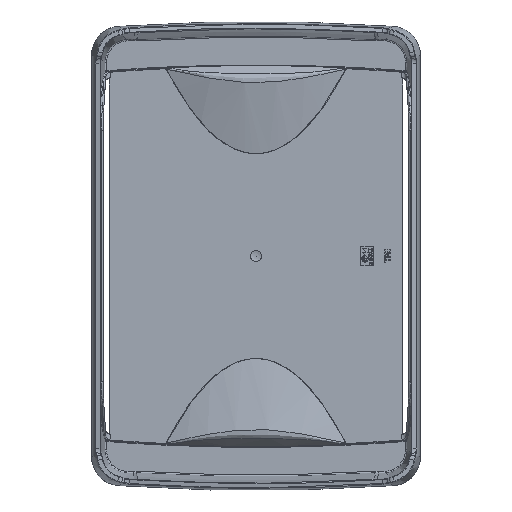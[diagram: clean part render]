
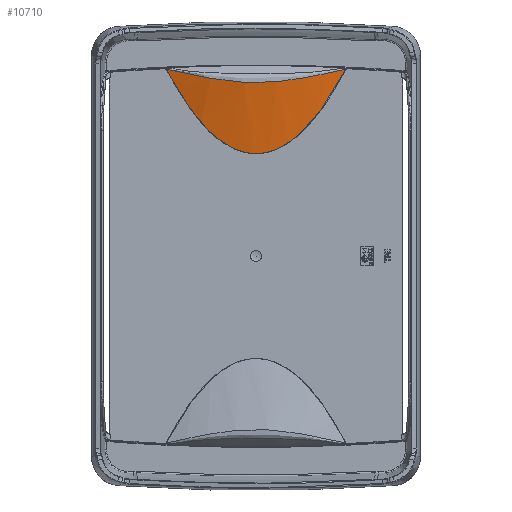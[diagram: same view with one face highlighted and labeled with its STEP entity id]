
A CAD part, top view. The second image highlights one B-rep face of the part: STEP entity #10710.
In plain terms, the highlighted cylindrical face has radius 175 mm (diameter 350 mm), a partial arc.
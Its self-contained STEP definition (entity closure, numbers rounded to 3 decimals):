
#189=ELLIPSE('',#11575,1012.253,175.);
#1443=CYLINDRICAL_SURFACE('',#11580,175.);
#1903=FACE_OUTER_BOUND('',#2625,.T.);
#2625=EDGE_LOOP('',(#8682,#8683));
#3185=B_SPLINE_CURVE_WITH_KNOTS('',3,(#21037,#21038,#21039,#21040,#21041,
#21042,#21043,#21044,#21045,#21046),.UNSPECIFIED.,.F.,.F.,(4,1,1,1,1,1,
1,4),(0.063,1.655,3.262,4.87,
6.478,8.086,9.693,11.285),
 .UNSPECIFIED.);
#4656=VERTEX_POINT('',#20797);
#4657=VERTEX_POINT('',#20835);
#6052=EDGE_CURVE('',#4657,#4656,#189,.T.);
#6059=EDGE_CURVE('',#4656,#4657,#3185,.T.);
#8682=ORIENTED_EDGE('',*,*,#6052,.F.);
#8683=ORIENTED_EDGE('',*,*,#6059,.F.);
#10710=ADVANCED_FACE('',(#1903),#1443,.T.);
#11575=AXIS2_PLACEMENT_3D('',#20837,#13463,#13464);
#11580=AXIS2_PLACEMENT_3D('',#21047,#13473,#13474);
#13463=DIRECTION('center_axis',(0.,0.001,
-1.));
#13464=DIRECTION('ref_axis',(0.,-1.,-0.001));
#13473=DIRECTION('center_axis',(0.,-0.985,-0.174));
#13474=DIRECTION('ref_axis',(1.,0.,0.));
#20797=CARTESIAN_POINT('',(-55.536,115.934,-36.547));
#20835=CARTESIAN_POINT('',(55.536,115.934,-36.547));
#20837=CARTESIAN_POINT('Origin',(0.,1075.862,-35.8));
#21037=CARTESIAN_POINT('Ctrl Pts',(-55.536,115.934,-36.547));
#21038=CARTESIAN_POINT('Ctrl Pts',(-50.518,114.878,-35.028));
#21039=CARTESIAN_POINT('Ctrl Pts',(-40.361,112.598,-32.492));
#21040=CARTESIAN_POINT('Ctrl Pts',(-24.69,109.53,-30.015));
#21041=CARTESIAN_POINT('Ctrl Pts',(-8.387,107.465,-28.79));
#21042=CARTESIAN_POINT('Ctrl Pts',(8.388,107.46,-28.79));
#21043=CARTESIAN_POINT('Ctrl Pts',(24.69,109.528,-30.015));
#21044=CARTESIAN_POINT('Ctrl Pts',(40.361,112.597,-32.492));
#21045=CARTESIAN_POINT('Ctrl Pts',(50.518,114.878,-35.028));
#21046=CARTESIAN_POINT('Ctrl Pts',(55.536,115.934,-36.547));
#21047=CARTESIAN_POINT('Origin',(0.,84.434,-210.616));
